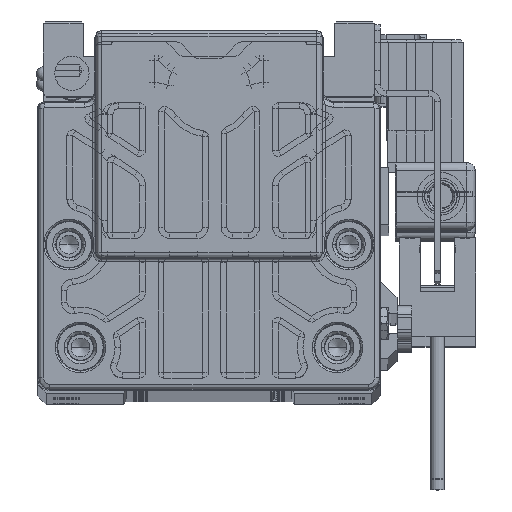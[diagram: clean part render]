
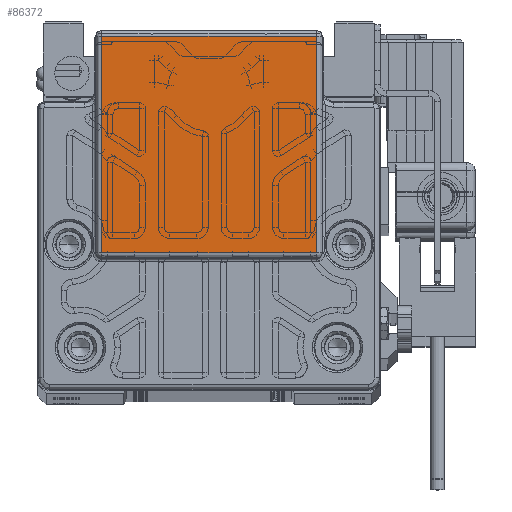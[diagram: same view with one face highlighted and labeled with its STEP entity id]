
A CAD part, top view. The second image highlights one B-rep face of the part: STEP entity #86372.
In plain terms, the highlighted planar face has unit normal (0, 0, 1) as drawn and (0, 0, -1) by its records, which use the part's own axes.
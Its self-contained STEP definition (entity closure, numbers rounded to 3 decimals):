
#4501 = EDGE_CURVE ( 'NONE', #90994, #72828, #86068, .T. ) ;
#5957 = EDGE_CURVE ( 'NONE', #72828, #64780, #13538, .T. ) ;
#10908 = AXIS2_PLACEMENT_3D ( 'NONE', #22353, #36276, #65553 ) ;
#13538 = LINE ( 'NONE', #77874, #68294 ) ;
#20308 = ORIENTED_EDGE ( 'NONE', *, *, #5957, .F. ) ;
#21547 = CARTESIAN_POINT ( 'NONE',  ( 18.808, 24.518, -143. ) ) ;
#22353 = CARTESIAN_POINT ( 'NONE',  ( 19., 24.5, -143. ) ) ;
#27551 = CARTESIAN_POINT ( 'NONE',  ( 19., 62.447, -143. ) ) ;
#29810 = CARTESIAN_POINT ( 'NONE',  ( 18.808, 62.447, -143. ) ) ;
#36276 = DIRECTION ( 'NONE',  ( 0., 0., -1. ) ) ;
#36524 = ORIENTED_EDGE ( 'NONE', *, *, #85600, .T. ) ;
#42886 = DIRECTION ( 'NONE',  ( 1., 0., 0. ) ) ;
#42892 = VECTOR ( 'NONE', #42886, 1000. ) ;
#49762 = PLANE ( 'NONE',  #10908 ) ;
#50770 = LINE ( 'NONE', #94412, #69908 ) ;
#52080 = CARTESIAN_POINT ( 'NONE',  ( -18.808, 62.447, -143. ) ) ;
#55789 = DIRECTION ( 'NONE',  ( 0., 1., 0. ) ) ;
#56951 = FACE_OUTER_BOUND ( 'NONE', #78504, .T. ) ;
#64780 = VERTEX_POINT ( 'NONE', #29810 ) ;
#65132 = DIRECTION ( 'NONE',  ( 0., -1., 0. ) ) ;
#65553 = DIRECTION ( 'NONE',  ( 0., 1., 0. ) ) ;
#66320 = EDGE_CURVE ( 'NONE', #94311, #90994, #50770, .T. ) ;
#68294 = VECTOR ( 'NONE', #55789, 1000. ) ;
#69908 = VECTOR ( 'NONE', #65132, 1000. ) ;
#70563 = ORIENTED_EDGE ( 'NONE', *, *, #66320, .F. ) ;
#71216 = LINE ( 'NONE', #27551, #42892 ) ;
#72675 = ORIENTED_EDGE ( 'NONE', *, *, #4501, .F. ) ;
#72828 = VERTEX_POINT ( 'NONE', #21547 ) ;
#74042 = CARTESIAN_POINT ( 'NONE',  ( -18.808, 24.518, -143. ) ) ;
#75805 = VECTOR ( 'NONE', #79806, 1000. ) ;
#77874 = CARTESIAN_POINT ( 'NONE',  ( 18.808, 24.5, -143. ) ) ;
#78504 = EDGE_LOOP ( 'NONE', ( #20308, #72675, #70563, #36524 ) ) ;
#79806 = DIRECTION ( 'NONE',  ( 1., 0., 0. ) ) ;
#85600 = EDGE_CURVE ( 'NONE', #94311, #64780, #71216, .T. ) ;
#86068 = LINE ( 'NONE', #86531, #75805 ) ;
#86372 = ADVANCED_FACE ( 'NONE', ( #56951 ), #49762, .T. ) ;
#86531 = CARTESIAN_POINT ( 'NONE',  ( 19., 24.518, -143. ) ) ;
#90994 = VERTEX_POINT ( 'NONE', #74042 ) ;
#94311 = VERTEX_POINT ( 'NONE', #52080 ) ;
#94412 = CARTESIAN_POINT ( 'NONE',  ( -18.808, 31., -143. ) ) ;
